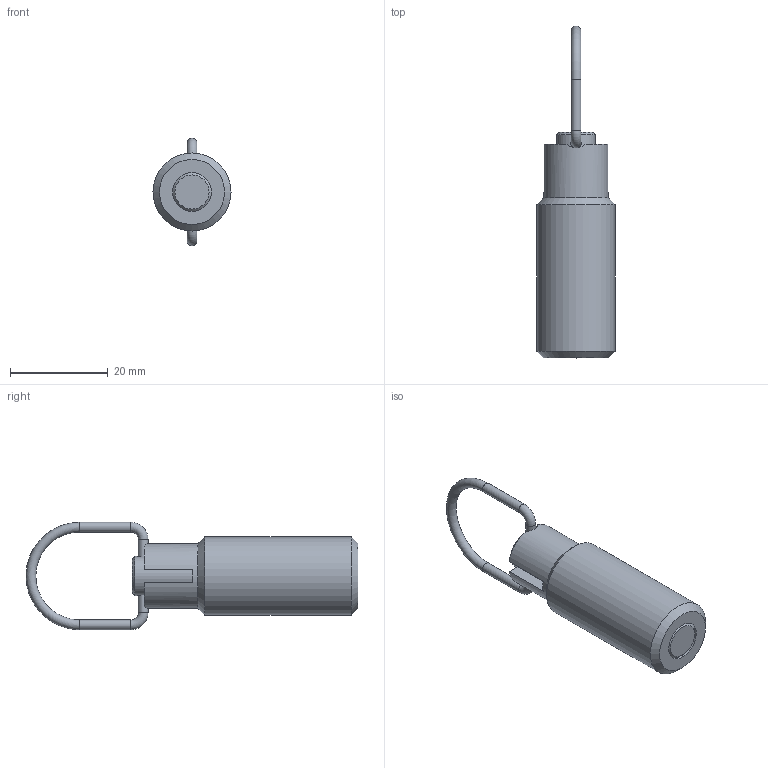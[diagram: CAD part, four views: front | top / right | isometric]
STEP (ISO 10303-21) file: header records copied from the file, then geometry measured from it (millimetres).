
FILE_DESCRIPTION( ( 'STEP AP203' ), '1' );
FILE_NAME( 'C:/Temp/Ganter_Step_05_03_2020/data/3_1/gn_413/gn413_ni/gn413_ni_c/Stainless Steel Indexing plunger GN 413-8-M16x1,5-C-NI (activated).stp', '2020-03-12T09:11:26', ( 'License CC BY-ND 4.0' ), ( 'CADENAS' ), ' ', 'PARTsolutions', ' ' );
FILE_SCHEMA( ( 'CONFIG_CONTROL_DESIGN' ) );
Length unit declared in the file: millimetre
Products named in the file (3): Stainless Steel Indexing plunger GN 413-8-M16x1,5-C-NI (activated); _Edelstahl-Rastbolzen GN 413-8-M16-C-NI (2)_f; _Edelstahl-Rastbolzen GN 413-8-M16-C-NI (2)_b
Assembly tree (2 placements, depth 2):
  Stainless Steel Indexing plunger GN 413-8-M16x1,5-C-NI (activated)
    _Edelstahl-Rastbolzen GN 413-8-M16-C-NI (2)_f
    _Edelstahl-Rastbolzen GN 413-8-M16-C-NI (2)_b
Bounding box: 16 x 68 x 22 mm (x, y, z)
Volume: 7691.1 mm3; surface area: 5390.8 mm2
Topology: 2 solids, 2 shells, 42 faces, 92 edges, 58 vertices
Faces by surface type: plane 18, cylinder 15, cone 6, torus 3
Full cylindrical faces by diameter (mm): 2 x4, 8 x4, 8.3 x1, 11 x2, 13.2 x1, 16 x1
Entity records: 1242 total; most frequent: CARTESIAN_POINT 301, DIRECTION 188, ORIENTED_EDGE 130, AXIS2_PLACEMENT_3D 84, EDGE_LOOP 72, EDGE_CURVE 65, FACE_OUTER_BOUND 58, VERTEX_POINT 53
